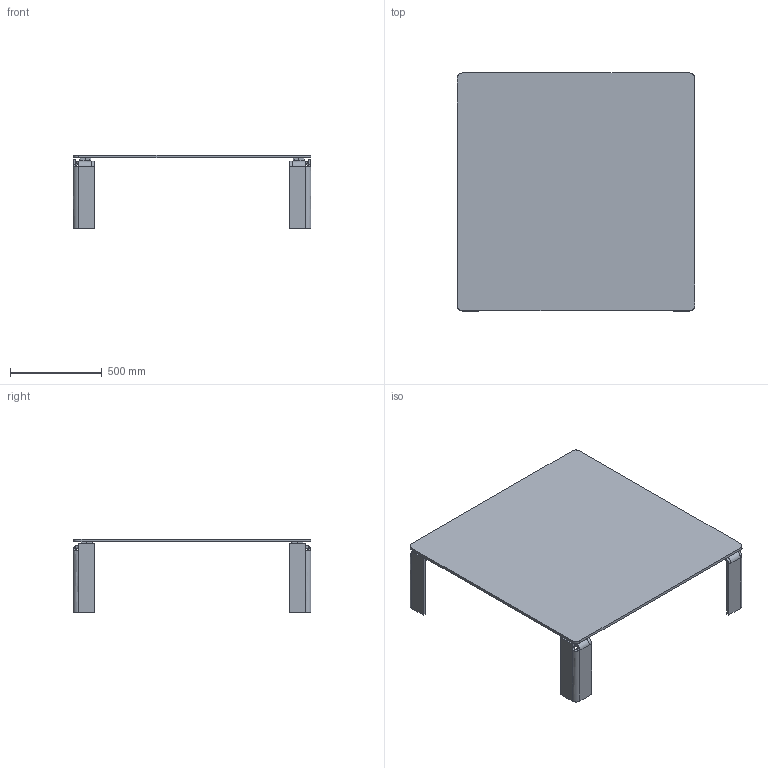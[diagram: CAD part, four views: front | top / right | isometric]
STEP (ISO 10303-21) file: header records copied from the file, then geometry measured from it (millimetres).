
FILE_DESCRIPTION(/* description */ (''),/* implementation_level */ '2;1');
FILE_NAME(/* name */ '107 - Newton 130x130 H40',/* time_stamp */ '2012-06-20T14:43:09+02:00',/* author */ (''),/* organization */ (''),/* preprocessor_version */ 'ST-DEVELOPER v10',/* originating_system */ '',/* authorisation */ '');
FILE_SCHEMA (('CONFIG_CONTROL_DESIGN'));
Length unit declared in the file: millimetre
Products named in the file (1): 1
Bounding box: 1300 x 1300 x 404 mm (x, y, z)
Volume: 30866251.8 mm3; surface area: 4372068.5 mm2
Topology: 17 solids, 17 shells, 224 faces, 514 edges, 316 vertices
Faces by surface type: bspline 126, plane 98
Entity records: 8532 total; most frequent: CARTESIAN_POINT 5148, ORIENTED_EDGE 1012, EDGE_CURVE 506, B_SPLINE_CURVE_WITH_KNOTS 370, VERTEX_POINT 316, EDGE_LOOP 248, ADVANCED_FACE 224, FACE_OUTER_BOUND 224
